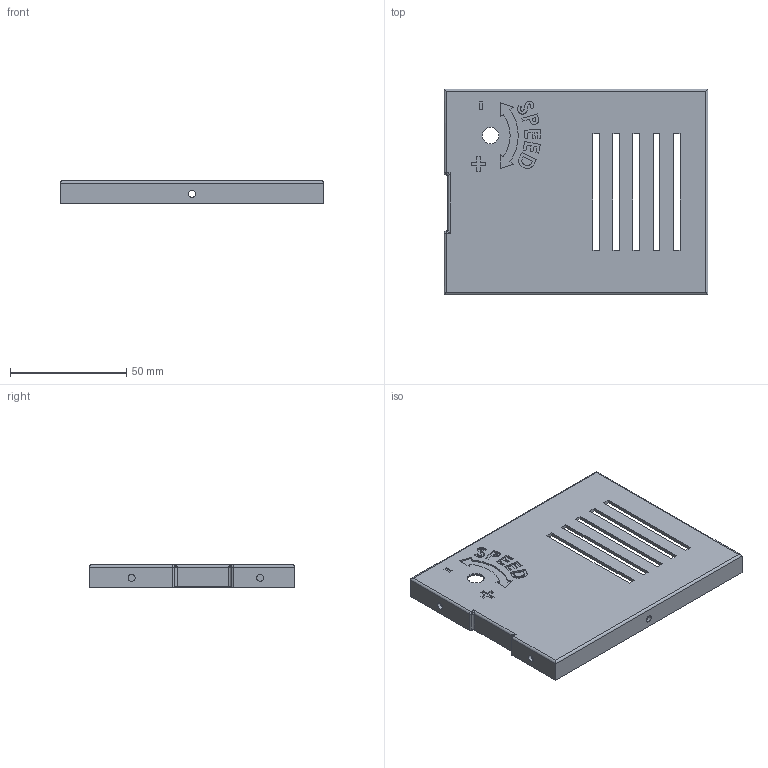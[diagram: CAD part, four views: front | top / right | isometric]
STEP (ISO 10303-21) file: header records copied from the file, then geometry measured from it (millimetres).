
FILE_DESCRIPTION (( 'STEP AP203' ), '1' );
FILE_NAME ('Upper Part.STEP', '2019-01-06T18:18:21', ( '' ), ( '' ), 'SwSTEP 2.0', 'SolidWorks 2017', '' );
FILE_SCHEMA (( 'CONFIG_CONTROL_DESIGN' ));
Length unit declared in the file: millimetre
Products named in the file (1): Upper Part
Bounding box: 113.4 x 88.4 x 9.6 mm (x, y, z)
Volume: 17861.4 mm3; surface area: 26248.9 mm2
Topology: 1 solids, 1 shells, 174 faces, 470 edges, 306 vertices
Faces by surface type: plane 113, bspline 33, cylinder 28
Entity records: 7026 total; most frequent: CARTESIAN_POINT 2745, ORIENTED_EDGE 936, DIRECTION 730, EDGE_CURVE 468, VECTOR 354, LINE 354, VERTEX_POINT 306, EDGE_LOOP 206
